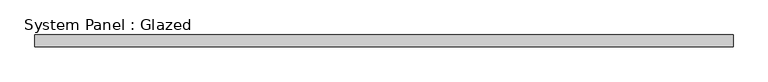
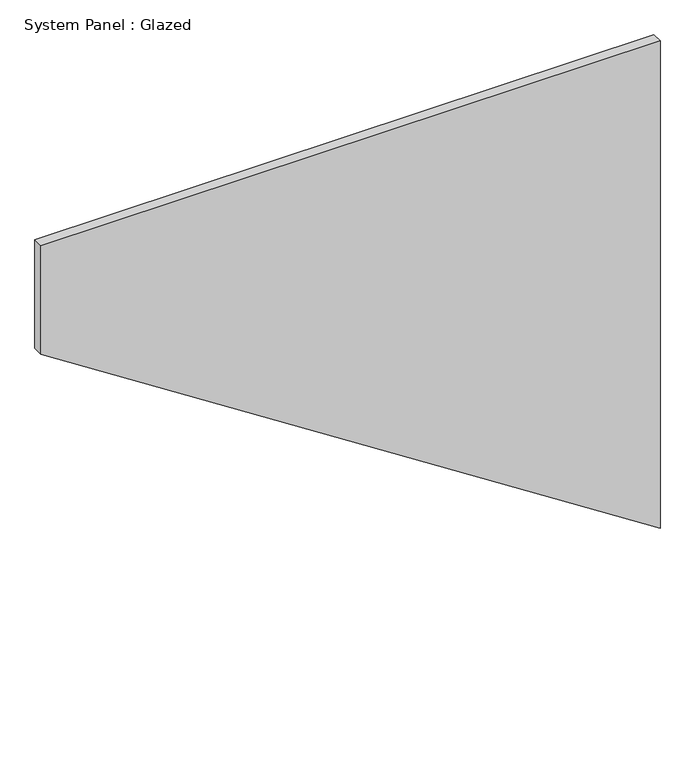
"""IFC4 building model written with IfcOpenShell, lengths in millimetres: plate geometry, System Panel : Glazed."""

from ifc_helpers import new_model, si_unit, frame, origin, place, context, project, spatial, polyline, outline, extrude, source, transform, mapped, element, save


def system_panel_glazed_f730d907(model_context):
    return source(origin(), model_context, "Body", "SweptSolid", [
        extrude(outline(polyline([(952.4450444, -735.8695652), (0.0, 735.8695652), (1224.4762657, 735.8695652), (1224.4762657, -735.8695652), (952.4450444, -735.8695652)])), frame((0.0, 24.5, 0.0), z_axis=(0.0, 1.0, 0.0), x_axis=(0.0, 0.0, 1.0)), (0.0, 0.0, 1.0), 25.0),
    ])


if __name__ == "__main__":
    model = new_model("IFC4")
    model_context = context("Model", 3, world=origin())
    ifc_project = project(units=[si_unit("LENGTHUNIT", "METRE", prefix="MILLI")], contexts=[model_context])
    site = spatial("IfcSite", under=ifc_project)
    building = spatial("IfcBuilding", under=site)
    placement = place(None, origin())
    system_panel_glazed_shape = system_panel_glazed_f730d907(model_context)
    element("IfcPlate", 1, ObjectType="System Panel : Glazed", at=placement, inside=building, context=model_context, shape_type="MappedRepresentation", body=[
        mapped(system_panel_glazed_shape, transform((0.0, 0.0, 0.0), x_axis=(1.0, 0.0, 0.0), y_axis=(0.0, 1.0, 0.0), z_axis=(0.0, 0.0, 1.0))),
    ])
    save(model, "model.ifc")
